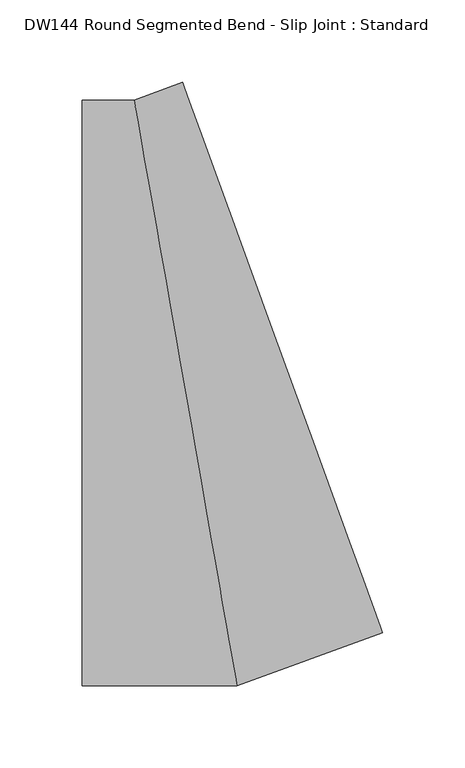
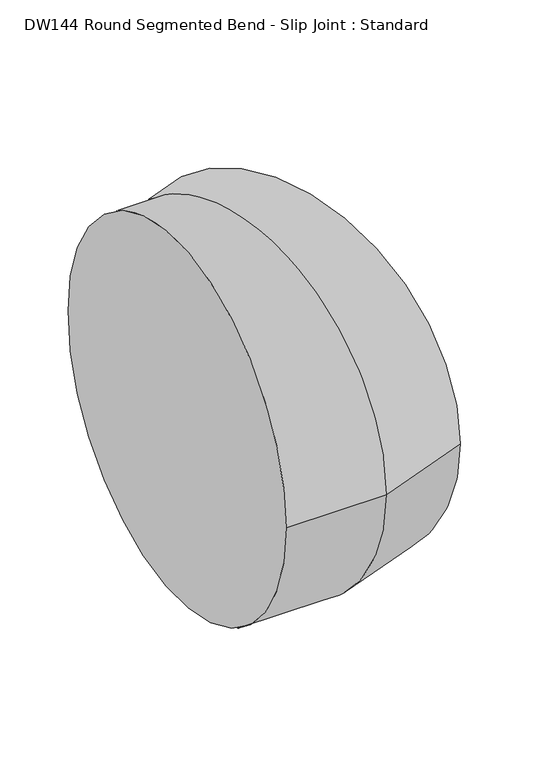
"""IFC4 building model written with IfcOpenShell, lengths in millimetres: duct fitting geometry, DW144 Round Segmented Bend - Slip Joint : Standard."""

from ifc_helpers import new_model, si_unit, frame, origin, place, context, project, spatial, circle_curve, ellipse_curve, source, transform, mapped, element, save
from ifc_brep_helpers import plane_surface, cylinder_surface, advanced_brep


def dw144_round_segmented_bend_slip_joint_standard_f884a47d(model_context):
    return source(origin(), model_context, "Body", "AdvancedBrep", [
        advanced_brep(
        [(-62.5960781, -177.5, 0.0), (-62.5960781, 177.5, 0.0), (31.2980391, -177.5, 0.0), (-31.2980391, 177.5, 0.0), (119.5296482, -145.3863206, 0.0), (-1.8875027, 188.2045598, 0.0)],
        [
            (0, 1, circle_curve(frame((-62.5960781, 0.0, 0.0), z_axis=(-1.0, 0.0, 0.0), x_axis=(0.0, 1.0, 0.0)), 177.5)),
            (1, 0, circle_curve(frame((-62.5960781, 0.0, 0.0), z_axis=(-1.0, 0.0, 0.0), x_axis=(0.0, 1.0, 0.0)), 177.5)),
            (0, 2),
            (2, 3, ellipse_curve(frame((0.0, 0.0, 0.0), z_axis=(-0.9848077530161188, -0.17364817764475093, 0.0), x_axis=(-0.17364817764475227, 0.9848077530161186, 0.0)), 180.2382236, 177.5)),
            (3, 1),
            (3, 2, ellipse_curve(frame((0.0, 0.0, 0.0), z_axis=(-0.9848077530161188, -0.17364817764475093, 0.0), x_axis=(-0.17364817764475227, 0.9848077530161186, 0.0)), 180.2382236, 177.5)),
            (2, 4),
            (4, 5, circle_curve(frame((58.8210727, 21.4091196, 0.0), z_axis=(-0.9396926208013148, -0.34202014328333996, 0.0), x_axis=(-0.34202014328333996, 0.9396926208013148, 0.0)), 177.5)),
            (5, 3),
            (5, 4, circle_curve(frame((58.8210727, 21.4091196, 0.0), z_axis=(-0.9396926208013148, -0.34202014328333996, 0.0), x_axis=(-0.34202014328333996, 0.9396926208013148, 0.0)), 177.5)),
        ],
        [
            plane_surface(frame((-62.5960781, 0.0, 0.0), z_axis=(-1.0, 0.0, 0.0), x_axis=(0.0, 0.0, 1.0))),
            cylinder_surface(frame((-62.5960781, 0.0, 0.0), z_axis=(-1.0, 0.0, 0.0), x_axis=(0.0, 1.0, 0.0)), 177.5),
            cylinder_surface(frame((0.0, 0.0, 0.0), z_axis=(-0.9396926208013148, -0.34202014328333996, 0.0), x_axis=(-0.34202014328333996, 0.9396926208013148, 0.0)), 177.5),
            plane_surface(frame((58.8210727, 21.4091196, 0.0), z_axis=(0.9396926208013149, 0.3420201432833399, 0.0), x_axis=(0.0, 0.0, 1.0))),
        ],
        [
            (0, [[1, 2]]),
            (1, [[-1, 3, 4, 5]]),
            (1, [[-2, -5, 6, -3]]),
            (2, [[-4, 7, 8, 9]]),
            (2, [[-6, -9, 10, -7]]),
            (3, [[-10, -8]]),
        ],
    ),
    ])


if __name__ == "__main__":
    model = new_model("IFC4")
    model_context = context("Model", 3, world=origin())
    ifc_project = project(units=[si_unit("LENGTHUNIT", "METRE", prefix="MILLI")], contexts=[model_context])
    site = spatial("IfcSite", under=ifc_project)
    building = spatial("IfcBuilding", under=site)
    placement = place(None, origin())
    dw144_round_segmented_bend_slip_joint_standard_shape = dw144_round_segmented_bend_slip_joint_standard_f884a47d(model_context)
    element("IfcDuctFitting", 1, ObjectType="DW144 Round Segmented Bend - Slip Joint : Standard", at=placement, inside=building, context=model_context, shape_type="MappedRepresentation", body=[
        mapped(dw144_round_segmented_bend_slip_joint_standard_shape, transform((0.0, 0.0, 0.0), x_axis=(1.0, 0.0, 0.0), y_axis=(0.0, 1.0, 0.0), z_axis=(0.0, 0.0, 1.0))),
    ])
    save(model, "model.ifc")
